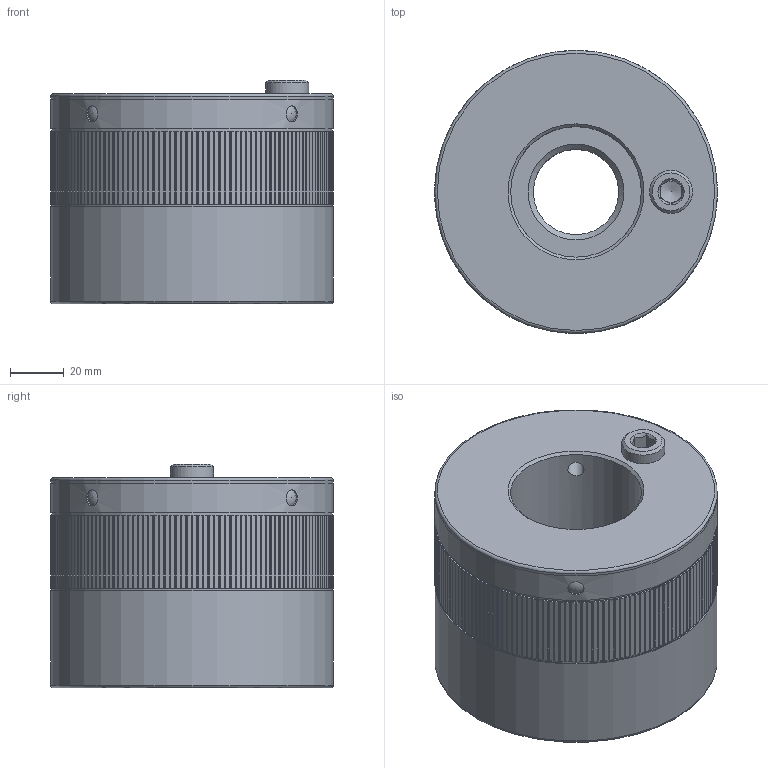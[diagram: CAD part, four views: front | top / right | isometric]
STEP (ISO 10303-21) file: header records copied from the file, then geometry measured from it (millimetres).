
FILE_DESCRIPTION(/* description */ ('Unknown','CAx-IF Rec.Pracs.---Representation and Presentation of Product Manufacturing Information (PMI)---4.0---2014-10-13','CAx-IF Rec.Pracs.---3D Tessellated Geometry---0.4---2014-09-14','2;1'),/* implementation_level */ '2;1');
FILE_NAME(/* name */ 'MDA 180_SW8_M36',/* time_stamp */ '2023-09-15T11:28:25+02:00',/* author */ ('Unknown'),/* organization */ ('Unknown'),/* preprocessor_version */ 'ST-DEVELOPER v18.102',/* originating_system */ 'Solid Edge',/* authorisation */ 'Unknown');
FILE_SCHEMA (('AP242_MANAGED_MODEL_BASED_3D_ENGINEERING_MIM_LF { 1 0 10303 442 1 1 4 }'));
Length unit declared in the file: millimetre
Products named in the file (7): 05933095; 43733051; 42231918; KT100003; 46431916; KT100869; 46331519
Assembly tree (9 placements, depth 2):
  05933095
    43733051
    42231918
    KT100003  x4
    46431916
    KT100869
    46331519
Bounding box: 105 x 105 x 83 mm (x, y, z)
Volume: 505850.6 mm3; surface area: 143043.9 mm2
Topology: 9 solids, 9 shells, 612 faces, 1743 edges, 1150 vertices
Faces by surface type: plane 354, cylinder 205, cone 31, torus 10, sphere 8, bspline 4
Full cylindrical faces by diameter (mm): 1.6 x1, 6 x12, 8 x1, 16 x2, 16.5 x1, 31.67 x1, 48.5 x1, 62 x3, 83.2 x1, 88 x1, 90 x1, 95.5 x1, 95.9 x1, 96 x3, 104 x2, 105 x3
Entity records: 19819 total; most frequent: CARTESIAN_POINT 3880, ORIENTED_EDGE 3220, DIRECTION 3218, EDGE_CURVE 1610, LINE 1154, VECTOR 1154, VERTEX_POINT 1106, AXIS2_PLACEMENT_3D 1032
